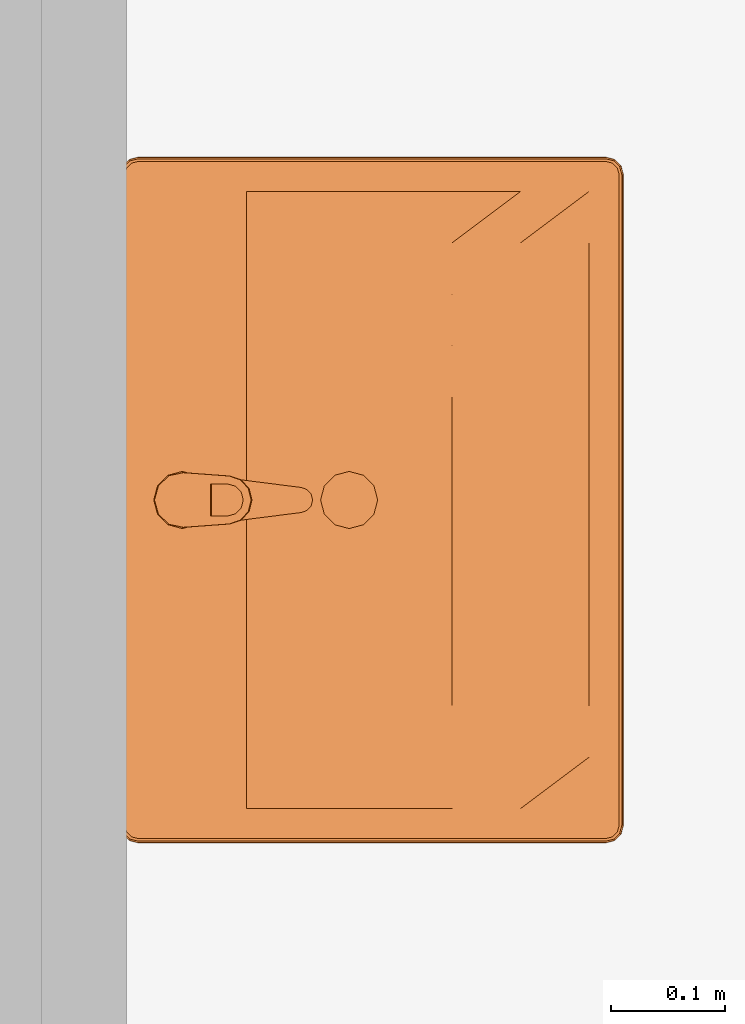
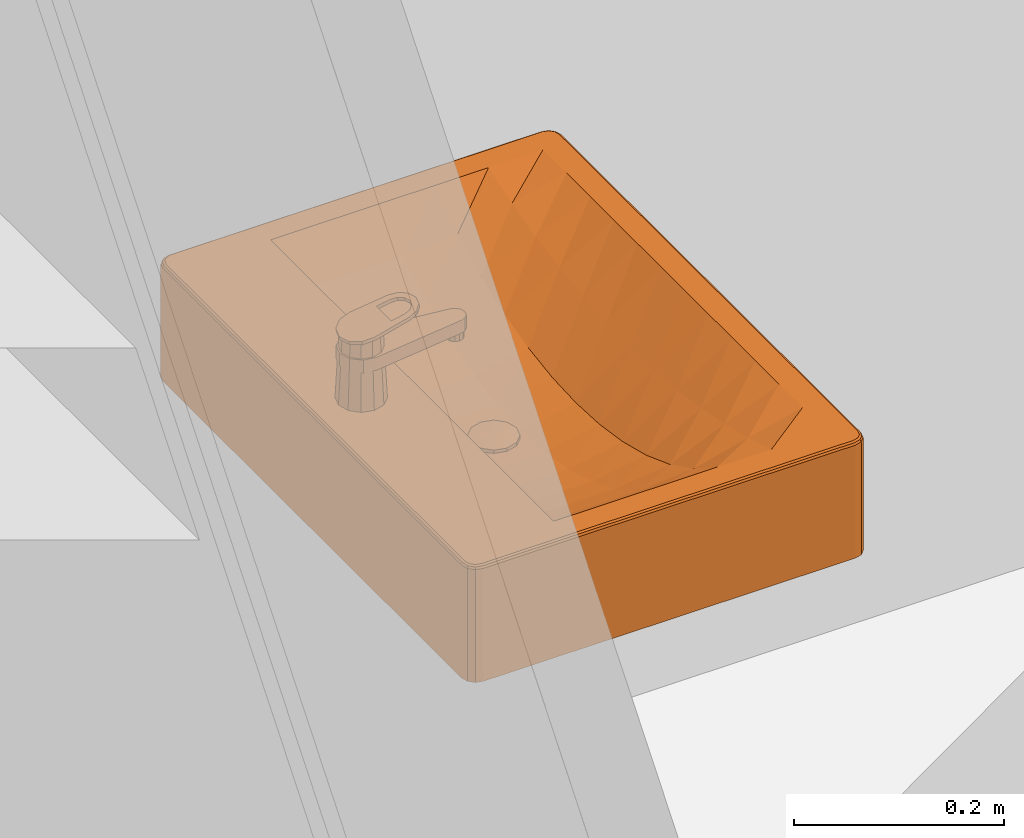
# One storey, part 91 of 91: 1 proxy.
"""IFC2X3 building model written with IfcOpenShell, lengths in metres."""

from ifc_helpers import new_model, entity, si_unit, converted_unit, derived_unit, money_unit, direction, frame, origin_with_axes, place, context, subcontext, project, spatial, open_shell, faceted_brep, surface_model, type_object, element, save


model = new_model("IFC2X3")

# Units and contexts
model_context = context("Model", 3, precision=1e-05, world=origin_with_axes(), true_north=direction((0.0, 1.0)))
body_context = subcontext(model_context, "Body", "Model", "MODEL_VIEW")
ifc_project = project(units=[si_unit("LENGTHUNIT", "METRE"), si_unit("AREAUNIT", "SQUARE_METRE"), si_unit("VOLUMEUNIT", "CUBIC_METRE"), converted_unit("PLANEANGLEUNIT", "DEGREE", entity("IfcPlaneAngleMeasure", 0.0174532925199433), si_unit("PLANEANGLEUNIT", "RADIAN"), dimensions=[0, 0, 0, 0, 0, 0, 0]), money_unit("EUR"), converted_unit("TIMEUNIT", "Year", entity("IfcTimeMeasure", 31557600.0), si_unit("TIMEUNIT", "SECOND"), dimensions=[0, 0, 1, 0, 0, 0, 0]), si_unit("MASSUNIT", "GRAM", prefix="KILO"), si_unit("THERMODYNAMICTEMPERATUREUNIT", "DEGREE_CELSIUS"), si_unit("LUMINOUSINTENSITYUNIT", "LUMEN"), si_unit("ENERGYUNIT", "JOULE", prefix="MEGA"), derived_unit("THERMALCONDUCTANCEUNIT", [(si_unit("POWERUNIT", "WATT"), 1), (si_unit("LENGTHUNIT", "METRE"), -1), (si_unit("THERMODYNAMICTEMPERATUREUNIT", "KELVIN"), -1)]), derived_unit("SPECIFICHEATCAPACITYUNIT", [(si_unit("ENERGYUNIT", "JOULE"), 1), (si_unit("MASSUNIT", "GRAM", prefix="KILO"), -1), (si_unit("THERMODYNAMICTEMPERATUREUNIT", "KELVIN"), -1)]), derived_unit("MASSDENSITYUNIT", [(si_unit("MASSUNIT", "GRAM", prefix="KILO"), 1), (si_unit("VOLUMEUNIT", "CUBIC_METRE"), -1)])], contexts=[model_context])

# Site, building, storey
site_placement = place(None, origin_with_axes())
site = spatial("IfcSite", under=ifc_project, at=site_placement, Name="Site", CompositionType="ELEMENT")
building_placement = place(site_placement, origin_with_axes())
building = spatial("IfcBuilding", under=site, at=building_placement, Name="Bâtiment", CompositionType="ELEMENT")
storey_placement = place(building_placement, origin_with_axes())
storey = spatial("IfcBuildingStorey", under=building, at=storey_placement, Name="RDC", CompositionType="ELEMENT", Elevation=0.0)

# Proxy
building_element_proxy_type = type_object("IfcBuildingElementProxyType", Name="Lavabo 27", PredefinedType="NOTDEFINED")
proxy_placement = place(storey_placement, frame((38.12200801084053, -20.72226813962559, -0.06700000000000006), z_axis=(0.0, 0.0, 1.0), x_axis=(3.309421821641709e-07, 0.9999999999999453, 0.0)))
element("IfcBuildingElementProxy", 1, at=proxy_placement, inside=storey, type_object=building_element_proxy_type, Name="VIDOIR", context=body_context, shape_type="SurfaceModel", body=[
    faceted_brep([(-0.285, -0.44, 0.865), (-0.2925, -0.4379903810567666, 0.865), (-0.2979903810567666, -0.4325, 0.865), (-0.3, -0.425, 0.865), (-0.3, -0.01500000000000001, 0.865), (-0.2979903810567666, -0.007500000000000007, 0.865), (-0.2925, -0.002009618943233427, 0.865), (-0.285, 0.0, 0.865), (0.285, 0.0, 0.865), (0.2925, -0.002009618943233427, 0.865), (0.2979903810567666, -0.007500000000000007, 0.865), (0.3, -0.01500000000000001, 0.865), (0.3, -0.425, 0.865), (0.2979903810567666, -0.4325, 0.865), (0.2925, -0.4379903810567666, 0.865), (0.285, -0.44, 0.865), (0.27, -0.41, 0.865), (0.27, -0.11, 0.865), (-0.27, -0.11, 0.865), (-0.27, -0.41, 0.865), (-0.2849999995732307, -0.4400000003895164, 0.995), (-0.292499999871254, -0.4379903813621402, 0.995), (-0.297990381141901, -0.4325000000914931, 0.995), (-0.3000000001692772, -0.4249999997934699, 0.995), (-0.3000000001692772, -0.01499999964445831, 0.995), (-0.297990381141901, -0.007500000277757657, 0.995), (-0.292499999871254, -0.002009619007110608, 0.995), (-0.2849999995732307, 0.0, 0.995), (0.2849999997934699, 0.0, 0.995), (0.2925000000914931, -0.002009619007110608, 0.995), (0.2979903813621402, -0.007500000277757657, 0.995), (0.3000000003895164, -0.01499999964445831, 0.995), (0.3000000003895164, -0.4249999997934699, 0.995), (0.2979903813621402, -0.4325000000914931, 0.995), (0.2925000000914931, -0.4379903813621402, 0.995), (0.2849999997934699, -0.4400000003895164, 0.995), (0.27, -0.11, 0.9999999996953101), (0.27, -0.41, 0.9999999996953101), (-0.27, -0.11, 0.9999999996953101), (-0.27, -0.41, 0.9999999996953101), (-0.2849775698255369, -0.4398296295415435, 0.9962940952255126), (-0.292411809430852, -0.4378376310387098, 0.9962940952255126), (-0.2978376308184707, -0.4324118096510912, 0.9962940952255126), (-0.2998296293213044, -0.4249775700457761, 0.9962940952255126), (-0.2998296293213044, -0.01502242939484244, 0.9962940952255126), (-0.2978376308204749, -0.007588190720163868, 0.9962940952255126), (-0.292411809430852, -0.002162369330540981, 0.9962940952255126), (-0.2849775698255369, -0.0001703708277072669, 0.9962940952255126), (0.2849775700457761, -0.0001703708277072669, 0.9962940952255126), (0.2924118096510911, -0.002162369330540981, 0.9962940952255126), (0.297837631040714, -0.007588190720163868, 0.9962940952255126), (0.2998296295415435, -0.01502242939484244, 0.9962940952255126), (0.2998296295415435, -0.4249775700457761, 0.9962940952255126), (0.2978376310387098, -0.4324118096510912, 0.9962940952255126), (0.2924118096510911, -0.4378376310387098, 0.9962940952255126), (0.2849775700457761, -0.4398296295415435, 0.9962940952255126), (0.2843417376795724, -0.004999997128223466, 0.9999999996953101), (-0.2843417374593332, -0.004999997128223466, 0.9999999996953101), (-0.2899118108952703, -0.00649249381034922, 0.9999999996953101), (-0.2935075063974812, -0.01008818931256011, 0.9999999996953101), (-0.2950000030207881, -0.01565826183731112, 0.9999999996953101), (-0.2950000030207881, -0.4243417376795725, 0.9999999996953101), (-0.2935075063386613, -0.4299118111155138, 0.9999999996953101), (-0.2899118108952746, -0.4335075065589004, 0.9999999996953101), (-0.2843417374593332, -0.4350000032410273, 0.9999999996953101), (0.2843417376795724, -0.4350000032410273, 0.9999999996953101), (0.2899118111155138, -0.4335075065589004, 0.9999999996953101), (0.2935075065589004, -0.4299118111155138, 0.9999999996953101), (0.2950000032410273, -0.4243417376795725, 0.9999999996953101), (0.2950000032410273, -0.01565826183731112, 0.9999999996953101), (0.2935075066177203, -0.01008818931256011, 0.9999999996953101), (0.2899118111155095, -0.00649249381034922, 0.9999999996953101), (-0.2848071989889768, -0.4385355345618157, 0.9985355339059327), (-0.2917419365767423, -0.4366773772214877, 0.9985355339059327), (-0.2966773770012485, -0.4317419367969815, 0.9985355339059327), (-0.2985355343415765, -0.4248071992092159, 0.9985355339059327), (-0.2985355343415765, -0.01519280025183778, 0.9985355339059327), (-0.2966773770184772, -0.008258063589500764, 0.9985355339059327), (-0.2917419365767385, -0.003322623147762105, 0.9985355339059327), (-0.2848071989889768, -0.001464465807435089, 0.9985355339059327), (0.2848071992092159, -0.001464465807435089, 0.9985355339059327), (0.2917419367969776, -0.003322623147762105, 0.9985355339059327), (0.2966773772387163, -0.008258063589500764, 0.9985355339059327), (0.2985355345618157, -0.01519280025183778, 0.9985355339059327), (0.2985355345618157, -0.4248071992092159, 0.9985355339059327), (0.2966773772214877, -0.4317419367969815, 0.9985355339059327), (0.2917419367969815, -0.4366773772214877, 0.9985355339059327), (0.2848071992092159, -0.4385355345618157, 0.9985355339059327), (0.2845121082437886, -0.003705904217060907, 0.9998296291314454), (-0.2845121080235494, -0.003705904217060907, 0.9998296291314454), (-0.290581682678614, -0.005332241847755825, 0.9998296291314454), (-0.2946677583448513, -0.009418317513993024, 0.9998296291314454), (-0.2962940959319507, -0.01548789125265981, 0.9998296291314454), (-0.2962940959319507, -0.4245121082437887, 0.9998296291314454), (-0.2946677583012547, -0.4305816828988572, 0.9998296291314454), (-0.2905816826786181, -0.4346677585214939, 0.9998296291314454), (-0.2845121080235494, -0.4362940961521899, 0.9998296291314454), (0.2845121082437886, -0.4362940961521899, 0.9998296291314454), (0.2905816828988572, -0.4346677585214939, 0.9998296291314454), (0.2946677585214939, -0.4305816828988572, 0.9998296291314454), (0.2962940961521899, -0.4245121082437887, 0.9998296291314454), (0.2962940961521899, -0.01548789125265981, 0.9998296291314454), (0.2946677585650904, -0.009418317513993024, 0.9998296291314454), (0.2905816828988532, -0.005332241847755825, 0.9998296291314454)], [[[0, 1, 2, 3, 4, 5, 6, 7, 8, 9, 10, 11, 12, 13, 14, 15], [16, 17, 18, 19]], [[1, 0, 20, 21]], [[2, 1, 21, 22]], [[3, 2, 22, 23]], [[4, 3, 23, 24]], [[5, 4, 24, 25]], [[6, 5, 25, 26]], [[7, 6, 26, 27]], [[8, 7, 27, 28]], [[9, 8, 28, 29]], [[10, 9, 29, 30]], [[11, 10, 30, 31]], [[12, 11, 31, 32]], [[13, 12, 32, 33]], [[14, 13, 33, 34]], [[15, 14, 34, 35]], [[0, 15, 35, 20]], [[36, 17, 16, 37]], [[38, 18, 17, 36]], [[39, 19, 18, 38]], [[37, 16, 19, 39]], [[21, 20, 40, 41]], [[22, 21, 41, 42]], [[23, 22, 42, 43]], [[24, 23, 43, 44]], [[25, 24, 44, 45]], [[26, 25, 45, 46]], [[27, 26, 46, 47]], [[28, 27, 47, 48]], [[29, 28, 48, 49]], [[30, 29, 49, 50]], [[31, 30, 50, 51]], [[32, 31, 51, 52]], [[33, 32, 52, 53]], [[34, 33, 53, 54]], [[35, 34, 54, 55]], [[20, 35, 55, 40]], [[56, 57, 58, 59, 60, 61, 62, 63, 64, 65, 66, 67, 68, 69, 70, 71], [37, 39, 38, 36]], [[41, 40, 72, 73]], [[42, 41, 73, 74]], [[43, 42, 74, 75]], [[44, 43, 75, 76]], [[45, 44, 76, 77]], [[46, 45, 77, 78]], [[47, 46, 78, 79]], [[48, 47, 79, 80]], [[49, 48, 80, 81]], [[50, 49, 81, 82]], [[51, 50, 82, 83]], [[52, 51, 83, 84]], [[53, 52, 84, 85]], [[54, 53, 85, 86]], [[55, 54, 86, 87]], [[40, 55, 87, 72]], [[88, 89, 57, 56]], [[89, 90, 58, 57]], [[90, 91, 59, 58]], [[91, 92, 60, 59]], [[92, 93, 61, 60]], [[93, 94, 62, 61]], [[94, 95, 63, 62]], [[95, 96, 64, 63]], [[96, 97, 65, 64]], [[97, 98, 66, 65]], [[98, 99, 67, 66]], [[99, 100, 68, 67]], [[100, 101, 69, 68]], [[101, 102, 70, 69]], [[102, 103, 71, 70]], [[103, 88, 56, 71]], [[73, 72, 96, 95]], [[74, 73, 95, 94]], [[75, 74, 94, 93]], [[76, 75, 93, 92]], [[77, 76, 92, 91]], [[78, 77, 91, 90]], [[79, 78, 90, 89]], [[80, 79, 89, 88]], [[81, 80, 88, 103]], [[82, 81, 103, 102]], [[83, 82, 102, 101]], [[84, 83, 101, 100]], [[85, 84, 100, 99]], [[86, 85, 99, 98]], [[87, 86, 98, 97]], [[72, 87, 97, 96]]]),
    faceted_brep([(0.27, -0.41, 0.865), (-0.27, -0.41, 0.865), (-0.27, -0.11, 0.865), (0.27, -0.11, 0.865), (-0.01249999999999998, -0.221641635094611, 0.865), (0.0, -0.224991, 0.865), (0.01250000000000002, -0.221641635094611, 0.865), (0.02165063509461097, -0.212491, 0.865), (0.025, -0.199991, 0.865), (0.02165063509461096, -0.187491, 0.865), (0.01249999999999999, -0.178340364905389, 0.865), (0.0, -0.174991, 0.865), (-0.01250000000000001, -0.178340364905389, 0.865), (-0.02165063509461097, -0.187491, 0.865), (-0.025, -0.199991, 0.865), (-0.02165063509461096, -0.212491, 0.865), (0.135, -0.41, 1.0), (0.09, -0.41, 1.0), (0.04499999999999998, -0.41, 1.0), (0.0, -0.41, 1.0), (-0.04500000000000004, -0.41, 1.0), (-0.09000000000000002, -0.41, 1.0), (-0.135, -0.41, 1.0), (-0.18, -0.41, 1.0), (-0.225, -0.41, 1.0), (-0.27, -0.41, 1.0), (0.27, -0.41, 1.0), (0.225, -0.41, 1.0), (0.18, -0.41, 1.0), (-0.27, -0.23, 1.0), (-0.27, -0.17, 1.0), (-0.27, -0.11, 1.0), (-0.27, -0.35, 1.0), (-0.27, -0.29, 0.9999999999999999), (-0.135, -0.11, 0.9226004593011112), (-0.09000000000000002, -0.11, 0.9098887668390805), (-0.04500000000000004, -0.11, 0.902449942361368), (0.0, -0.11, 0.9), (0.04499999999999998, -0.11, 0.902449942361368), (0.09, -0.11, 0.9098887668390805), (0.135, -0.11, 0.9226004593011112), (0.18, -0.11, 0.9411231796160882), (0.225, -0.11, 0.9663832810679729), (0.27, -0.11, 1.0), (-0.225, -0.11, 0.9663832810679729), (-0.18, -0.11, 0.9411231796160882), (0.27, -0.29, 1.0), (0.27, -0.35, 1.0), (0.27, -0.17, 1.0), (0.27, -0.23, 1.0), (0.0, -0.224991, 0.9), (-0.01249999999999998, -0.221641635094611, 0.9006805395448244), (0.01250000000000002, -0.221641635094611, 0.9006805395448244), (0.02165063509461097, -0.212491, 0.9011787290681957), (0.025, -0.199991, 0.9013610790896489), (0.02165063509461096, -0.187491, 0.9011787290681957), (0.01249999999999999, -0.178340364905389, 0.9006805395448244), (0.0, -0.174991, 0.9), (-0.01250000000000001, -0.178340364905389, 0.9006805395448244), (-0.02165063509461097, -0.187491, 0.9011787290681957), (-0.025, -0.199991, 0.9013610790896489), (-0.02165063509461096, -0.212491, 0.9011787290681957), (0.09, -0.35, 0.9596989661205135), (0.04499999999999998, -0.35, 0.9560213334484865), (0.0, -0.35, 0.9547990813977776), (-0.04500000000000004, -0.35, 0.9560213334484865), (-0.09000000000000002, -0.35, 0.9596989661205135), (-0.135, -0.35, 0.9658650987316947), (-0.18, -0.35, 0.9745766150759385), (-0.225, -0.35, 0.9859168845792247), (0.225, -0.35, 0.9859168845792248), (0.18, -0.35, 0.9745766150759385), (0.135, -0.35, 0.9658650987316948), (-0.225, -0.23, 0.9663832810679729), (-0.225, -0.17, 0.9663832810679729), (-0.225, -0.29, 0.9708433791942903), (-0.135, -0.17, 0.9226004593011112), (-0.09000000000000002, -0.17, 0.9098887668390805), (-0.04500000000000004, -0.17, 0.902449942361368), (0.0, -0.17, 0.9), (0.04499999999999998, -0.17, 0.902449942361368), (0.09, -0.17, 0.9098887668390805), (0.135, -0.17, 0.9226004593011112), (0.18, -0.17, 0.9411231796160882), (0.225, -0.17, 0.9663832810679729), (-0.18, -0.17, 0.9411231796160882), (0.225, -0.29, 0.9708433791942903), (0.225, -0.23, 0.9663832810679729), (-0.04500000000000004, -0.23, 0.902449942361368), (0.0, -0.23, 0.9), (0.04499999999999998, -0.23, 0.902449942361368), (-0.18, -0.23, 0.9411231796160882), (-0.135, -0.23, 0.9226004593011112), (-0.09000000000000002, -0.23, 0.9098887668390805), (0.09, -0.23, 0.9098887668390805), (0.135, -0.23, 0.9226004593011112), (0.18, -0.23, 0.9411231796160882), (0.0, -0.29, 0.9114604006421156), (0.04499999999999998, -0.29, 0.9136864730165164), (0.09, -0.29, 0.9204312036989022), (-0.04500000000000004, -0.29, 0.9136864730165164), (-0.09000000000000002, -0.29, 0.9204312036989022), (-0.135, -0.29, 0.931904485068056), (-0.18, -0.29, 0.9484946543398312), (0.18, -0.29, 0.9484946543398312), (0.135, -0.29, 0.931904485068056)], [[[0, 1, 2, 3], [4, 5, 6, 7, 8, 9, 10, 11, 12, 13, 14, 15]], [[16, 17, 18, 19, 20, 21, 22, 23, 24, 25, 1, 0, 26, 27, 28]], [[29, 30, 31, 2, 1, 25, 32, 33]], [[34, 35, 36, 37, 38, 39, 40, 41, 42, 43, 3, 2, 31, 44, 45]], [[46, 47, 26, 0, 3, 43, 48, 49]], [[50, 5, 4, 51]], [[52, 6, 5, 50]], [[53, 7, 6, 52]], [[54, 8, 7, 53]], [[55, 9, 8, 54]], [[56, 10, 9, 55]], [[57, 11, 10, 56]], [[58, 12, 11, 57]], [[59, 13, 12, 58]], [[60, 14, 13, 59]], [[61, 15, 14, 60]], [[51, 4, 15, 61]], [[16, 62, 17]], [[17, 63, 18]], [[18, 64, 19]], [[19, 65, 20]], [[20, 66, 21]], [[21, 67, 22]], [[22, 68, 23]], [[23, 69, 24]], [[24, 32, 25]], [[26, 70, 27]], [[27, 71, 28]], [[28, 72, 16]], [[29, 73, 74, 30]], [[30, 74, 44, 31]], [[69, 33, 32]], [[75, 29, 33]], [[76, 77, 35, 34]], [[77, 78, 36, 35]], [[78, 79, 37, 36]], [[79, 80, 38, 37]], [[80, 81, 39, 38]], [[81, 82, 40, 39]], [[82, 83, 41, 40]], [[83, 84, 42, 41]], [[84, 48, 43, 42]], [[74, 85, 45, 44]], [[85, 76, 34, 45]], [[47, 46, 86]], [[26, 47, 70]], [[87, 49, 48, 84]], [[46, 49, 87]], [[58, 57, 79, 78, 88, 89, 50, 51, 61, 60, 59]], [[56, 55, 54, 53, 52, 50, 89, 90, 80, 79, 57]], [[16, 72, 62]], [[17, 62, 63]], [[18, 63, 64]], [[19, 64, 65]], [[20, 65, 66]], [[21, 66, 67]], [[22, 67, 68]], [[23, 68, 69]], [[24, 69, 32]], [[27, 70, 71]], [[28, 71, 72]], [[75, 73, 29]], [[73, 91, 85, 74]], [[69, 75, 33]], [[92, 93, 77, 76]], [[93, 88, 78, 77]], [[90, 94, 81, 80]], [[94, 95, 82, 81]], [[95, 96, 83, 82]], [[96, 87, 84, 83]], [[91, 92, 76, 85]], [[46, 87, 86]], [[47, 86, 70]], [[97, 89, 88]], [[98, 90, 89]], [[72, 99, 62]], [[62, 98, 63]], [[63, 97, 64]], [[64, 100, 65]], [[65, 101, 66]], [[66, 102, 67]], [[67, 103, 68]], [[68, 75, 69]], [[70, 104, 71]], [[71, 105, 72]], [[103, 73, 75]], [[103, 91, 73]], [[101, 93, 92]], [[100, 88, 93]], [[99, 94, 90]], [[105, 95, 94]], [[104, 96, 95]], [[86, 87, 96]], [[102, 92, 91]], [[70, 86, 104]], [[98, 89, 97]], [[97, 88, 100]], [[99, 90, 98]], [[72, 105, 99]], [[62, 99, 98]], [[63, 98, 97]], [[64, 97, 100]], [[65, 100, 101]], [[66, 101, 102]], [[67, 102, 103]], [[68, 103, 75]], [[71, 104, 105]], [[102, 91, 103]], [[100, 93, 101]], [[101, 92, 102]], [[105, 94, 99]], [[104, 95, 105]], [[86, 96, 104]]]),
    faceted_brep([(-0.02165063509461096, -0.212491, 0.9), (-0.025, -0.199991, 0.9), (-0.02165063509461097, -0.187491, 0.9), (-0.01250000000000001, -0.178340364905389, 0.9), (0.0, -0.174991, 0.9), (0.01249999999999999, -0.178340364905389, 0.9), (0.02165063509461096, -0.187491, 0.9), (0.025, -0.199991, 0.9), (0.02165063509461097, -0.212491, 0.9), (0.01250000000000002, -0.221641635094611, 0.9), (0.0, -0.224991, 0.9), (-0.01249999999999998, -0.221641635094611, 0.9), (-0.02165063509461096, -0.212491, 0.905), (-0.025, -0.199991, 0.905), (-0.02165063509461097, -0.187491, 0.905), (-0.01250000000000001, -0.178340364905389, 0.905), (0.0, -0.174991, 0.905), (0.01249999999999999, -0.178340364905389, 0.905), (0.02165063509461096, -0.187491, 0.905), (0.025, -0.199991, 0.905), (0.02165063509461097, -0.212491, 0.905), (0.01250000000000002, -0.221641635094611, 0.905), (0.0, -0.224991, 0.905), (-0.01249999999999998, -0.221641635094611, 0.905)], [[[0, 1, 2, 3, 4, 5, 6, 7, 8, 9, 10, 11]], [[0, 12, 13, 1]], [[1, 13, 14, 2]], [[2, 14, 15, 3]], [[3, 15, 16, 4]], [[4, 16, 17, 5]], [[5, 17, 18, 6]], [[6, 18, 19, 7]], [[7, 19, 20, 8]], [[8, 20, 21, 9]], [[9, 21, 22, 10]], [[10, 22, 23, 11]], [[11, 23, 12, 0]], [[12, 23, 22, 21, 20, 19, 18, 17, 16, 15, 14, 13]]]),
    surface_model("IfcShellBasedSurfaceModel", [(0.0, -0.199991, 0.907), (0.006310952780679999, -0.1890601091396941, 0.9064975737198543), (0.0, -0.18736909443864, 0.9064975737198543), (0.01093089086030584, -0.19368004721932, 0.9064975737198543), (0.0125, -0.178340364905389, 0.905), (0.0, -0.174991, 0.905), (-0.006310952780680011, -0.1890601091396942, 0.9064975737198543), (0.01262190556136, -0.199991, 0.9064975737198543), (0.02165063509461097, -0.187491, 0.905), (-0.01250000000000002, -0.178340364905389, 0.905), (-0.01093089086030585, -0.19368004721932, 0.9064975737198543), (0.01093089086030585, -0.20630195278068, 0.9064975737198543), (0.025, -0.199991, 0.905), (-0.02165063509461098, -0.187491, 0.905), (-0.01262190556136, -0.199991, 0.9064975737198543), (0.006310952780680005, -0.2109218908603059, 0.9064975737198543), (0.02165063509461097, -0.212491, 0.905), (-0.025, -0.199991, 0.905), (-0.01093089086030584, -0.20630195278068, 0.9064975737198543), (0.0, -0.21261290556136, 0.9064975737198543), (0.01250000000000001, -0.221641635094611, 0.905), (-0.02165063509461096, -0.212491, 0.905), (-0.006310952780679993, -0.2109218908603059, 0.9064975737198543), (0.0, -0.224991, 0.905), (-0.01249999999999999, -0.221641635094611, 0.905)], [open_shell([[[0, 1, 2]], [[0, 3, 1]], [[1, 4, 5, 2]], [[0, 2, 6]], [[0, 7, 3]], [[3, 8, 4, 1]], [[2, 5, 9, 6]], [[0, 6, 10]], [[0, 11, 7]], [[7, 12, 8, 3]], [[6, 9, 13, 10]], [[0, 10, 14]], [[0, 15, 11]], [[11, 16, 12, 7]], [[10, 13, 17, 14]], [[0, 14, 18]], [[0, 19, 15]], [[15, 20, 16, 11]], [[14, 17, 21, 18]], [[0, 18, 22]], [[0, 22, 19]], [[19, 23, 20, 15]], [[18, 21, 24, 22]], [[22, 24, 23, 19]]])]),
    faceted_brep([(-0.01250000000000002, -0.03234936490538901, 1.0), (-0.010587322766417, -0.03566221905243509, 1.076507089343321), (0.0, -0.03279807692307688, 1.075961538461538), (0.0, -0.02899999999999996, 1.0), (-0.02165063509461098, -0.04149999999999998, 1.0), (-0.01827355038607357, -0.04344976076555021, 1.07799043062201), (-0.021, -0.05399999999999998, 1.08), (-0.01810034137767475, -0.06445023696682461, 1.081990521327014), (-0.01041410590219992, -0.07203776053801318, 1.083435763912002), (0.0, -0.07480188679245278, 1.083962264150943), (0.01041410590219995, -0.07203776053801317, 1.083435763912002), (0.01810034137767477, -0.0644502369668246, 1.081990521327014), (0.021, -0.05399999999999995, 1.08), (0.01827355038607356, -0.04344976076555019, 1.07799043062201), (0.01058732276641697, -0.03566221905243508, 1.076507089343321), (0.0125, -0.03234936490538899, 1.0), (0.02165063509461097, -0.04149999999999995, 1.0), (0.025, -0.05399999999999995, 1.0), (0.02165063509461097, -0.06649999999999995, 1.0), (0.01250000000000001, -0.07565063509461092, 1.0), (0.0, -0.07899999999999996, 1.0), (-0.01249999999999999, -0.07565063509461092, 1.0), (-0.02165063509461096, -0.06649999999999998, 1.0), (-0.025, -0.05399999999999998, 1.0)], [[[0, 1, 2, 3]], [[4, 5, 1, 0]], [[1, 5, 6, 7, 8, 9, 10, 11, 12, 13, 14, 2]], [[3, 2, 14, 15]], [[0, 3, 15, 16, 17, 18, 19, 20, 21, 22, 23, 4]], [[23, 6, 5, 4]], [[22, 7, 6, 23]], [[21, 8, 7, 22]], [[20, 9, 8, 21]], [[19, 10, 9, 20]], [[18, 11, 10, 19]], [[17, 12, 11, 18]], [[16, 13, 12, 17]], [[15, 14, 13, 16]]]),
    faceted_brep([(-0.009000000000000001, -0.157, 1.035), (-0.009000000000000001, -0.157, 1.045), (-0.007794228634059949, -0.1525, 1.045), (-0.007794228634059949, -0.1525, 1.035), (-0.007794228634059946, -0.1615, 1.035), (-0.007794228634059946, -0.1615, 1.045), (-0.004499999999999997, -0.1647942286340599, 1.045), (0.0, -0.166, 1.045), (0.004500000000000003, -0.1647942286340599, 1.045), (0.007794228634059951, -0.1615, 1.045), (0.009000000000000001, -0.157, 1.045), (0.007794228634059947, -0.1525, 1.045), (0.004499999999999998, -0.14920577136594, 1.045), (0.0, -0.148, 1.045), (-0.004500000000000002, -0.14920577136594, 1.045), (-0.004500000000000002, -0.14920577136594, 1.035), (0.0, -0.148, 1.035), (0.004499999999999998, -0.14920577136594, 1.035), (0.007794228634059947, -0.1525, 1.035), (0.009000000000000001, -0.157, 1.035), (0.007794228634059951, -0.1615, 1.035), (0.004500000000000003, -0.1647942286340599, 1.035), (0.0, -0.166, 1.035), (-0.004499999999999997, -0.1647942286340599, 1.035)], [[[0, 1, 2, 3]], [[4, 5, 1, 0]], [[1, 5, 6, 7, 8, 9, 10, 11, 12, 13, 14, 2]], [[3, 2, 14, 15]], [[0, 3, 15, 16, 17, 18, 19, 20, 21, 22, 23, 4]], [[23, 6, 5, 4]], [[22, 7, 6, 23]], [[21, 8, 7, 22]], [[20, 9, 8, 21]], [[19, 10, 9, 20]], [[18, 11, 10, 19]], [[17, 12, 11, 18]], [[16, 13, 12, 17]], [[15, 14, 13, 16]]]),
    faceted_brep([(0.01287171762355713, -0.0337436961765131, 1.06), (-1.019988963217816e-09, -0.03000002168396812, 1.06), (-0.01287171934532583, -0.03374369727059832, 1.06), (-0.02172780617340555, -0.04380679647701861, 1.06), (-0.02380539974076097, -0.05704990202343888, 1.06), (-0.010912, -0.1583883, 1.06), (-0.00902891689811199, -0.1632831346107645, 1.06), (-0.005093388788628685, -0.1667496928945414, 1.06), (-3.626798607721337e-08, -0.1679999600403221, 1.06), (0.005093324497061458, -0.1667497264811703, 1.06), (0.00902887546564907, -0.163283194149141, 1.06), (0.0109119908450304, -0.1583883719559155, 1.06), (0.0238054, -0.05704989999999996, 1.06), (0.02172780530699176, -0.04380679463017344, 1.06), (-0.01100000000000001, -0.03494744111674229, 1.06), (0.0, -0.03199999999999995, 1.06), (0.011, -0.03494744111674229, 1.06), (0.01905255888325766, -0.04299999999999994, 1.06), (0.02200000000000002, -0.05399999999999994, 1.06), (0.01905255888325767, -0.06499999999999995, 1.06), (0.01100000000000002, -0.07305255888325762, 1.06), (0.0, -0.07599999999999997, 1.06), (-0.01099999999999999, -0.07305255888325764, 1.06), (-0.01905255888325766, -0.06499999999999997, 1.06), (-0.02200000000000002, -0.05399999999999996, 1.06), (-0.01905255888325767, -0.04299999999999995, 1.06), (0.01287171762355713, -0.0337436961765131, 1.045), (-1.019988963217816e-09, -0.03000002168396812, 1.045), (-0.01287171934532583, -0.03374369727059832, 1.045), (-0.02172780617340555, -0.04380679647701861, 1.045), (-0.02380539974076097, -0.05704990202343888, 1.045), (-0.010912, -0.1583883, 1.045), (-0.00902891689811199, -0.1632831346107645, 1.045), (-0.005093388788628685, -0.1667496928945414, 1.045), (-3.626798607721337e-08, -0.1679999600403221, 1.045), (0.005093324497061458, -0.1667497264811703, 1.045), (0.00902887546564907, -0.163283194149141, 1.045), (0.0109119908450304, -0.1583883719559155, 1.045), (0.0238054, -0.05704989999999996, 1.045), (0.02172780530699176, -0.04380679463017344, 1.045), (0.0, -0.03124999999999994, 1.045), (-0.01137500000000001, -0.03429792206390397, 1.045), (0.011375, -0.03429792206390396, 1.045), (0.01970207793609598, -0.04262499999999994, 1.045), (0.02275000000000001, -0.05399999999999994, 1.045), (0.01970207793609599, -0.06537499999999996, 1.045), (0.01137500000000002, -0.07370207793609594, 1.045), (0.0, -0.07674999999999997, 1.045), (-0.01137499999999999, -0.07370207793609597, 1.045), (-0.01970207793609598, -0.06537499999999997, 1.045), (-0.02275000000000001, -0.05399999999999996, 1.045), (-0.01970207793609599, -0.04262499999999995, 1.045)], [[[0, 1, 2, 3, 4, 5, 6, 7, 8, 9, 10, 11, 12, 13], [14, 15, 16, 17, 18, 19, 20, 21, 22, 23, 24, 25]], [[26, 27, 1, 0]], [[27, 28, 2, 1]], [[28, 29, 3, 2]], [[29, 30, 4, 3]], [[30, 31, 5, 4]], [[31, 32, 6, 5]], [[32, 33, 7, 6]], [[33, 34, 8, 7]], [[34, 35, 9, 8]], [[35, 36, 10, 9]], [[36, 37, 11, 10]], [[37, 38, 12, 11]], [[38, 39, 13, 12]], [[39, 26, 0, 13]], [[40, 15, 14, 41]], [[42, 16, 15, 40]], [[16, 42, 43, 17]], [[17, 43, 44, 18]], [[18, 44, 45, 19]], [[19, 45, 46, 20]], [[20, 46, 47, 21]], [[48, 22, 21, 47]], [[49, 23, 22, 48]], [[50, 24, 23, 49]], [[51, 25, 24, 50]], [[41, 14, 25, 51]], [[34, 33, 32, 31, 30, 29, 28, 27, 26, 39, 38, 37, 36, 35], [48, 47, 46, 45, 44, 43, 42, 40, 41, 51, 50, 49]]]),
    faceted_brep([(-0.023893, -0.05569256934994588, 1.080322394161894), (-0.023893, -0.0549441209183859, 1.084251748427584), (-0.02129642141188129, -0.0424768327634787, 1.081877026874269), (-0.02129642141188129, -0.04322528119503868, 1.077947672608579), (-0.02094593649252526, -0.09583670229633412, 1.087968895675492), (-0.02094593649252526, -0.09508825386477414, 1.091898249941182), (-0.01766313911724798, -0.1047659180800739, 1.09374161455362), (-0.01006143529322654, -0.11171529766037, 1.095065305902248), (4.426529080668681e-07, -0.1142371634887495, 1.09554566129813), (0.01006221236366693, -0.1117148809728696, 1.0950652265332), (0.01766361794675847, -0.1047651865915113, 1.093741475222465), (0.020946, -0.09508738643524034, 1.091898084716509), (0.02389302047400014, -0.05494384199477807, 1.084251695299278), (0.02129629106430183, -0.04247658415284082, 1.081876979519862), (0.0124716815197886, -0.03316035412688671, 1.080102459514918), (-1.423377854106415e-07, -0.02971958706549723, 1.079447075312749), (-0.01247192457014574, -0.03316049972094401, 1.080102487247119), (-0.014, -0.07879235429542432, 1.08879426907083), (0.014, -0.07879235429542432, 1.08879426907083), (0.014, -0.09360798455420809, 1.091616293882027), (0.01212435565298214, -0.1004843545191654, 1.092926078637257), (0.007000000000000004, -0.1055182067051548, 1.093884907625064), (0.0, -0.1073607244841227, 1.094235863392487), (-0.006999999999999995, -0.1055182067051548, 1.093884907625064), (-0.01212435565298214, -0.1004843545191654, 1.092926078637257), (-0.014, -0.0936079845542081, 1.091616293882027), (-0.01247192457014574, -0.03390894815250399, 1.076173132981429), (-1.423377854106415e-07, -0.03046803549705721, 1.075517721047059), (0.0124716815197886, -0.03390880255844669, 1.076173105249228), (0.02129629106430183, -0.0432250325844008, 1.077947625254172), (0.02389302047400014, -0.05569229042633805, 1.080322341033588), (0.020946, -0.0958358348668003, 1.087968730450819), (0.01766361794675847, -0.1055136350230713, 1.089812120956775), (0.01006221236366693, -0.1124633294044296, 1.09113587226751), (4.426529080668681e-07, -0.1149856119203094, 1.09161630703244), (-0.01006143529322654, -0.11246374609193, 1.091135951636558), (-0.01766313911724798, -0.1055143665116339, 1.08981226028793), (-0.014, -0.0795408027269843, 1.08486491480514), (-0.014, -0.09435643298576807, 1.087686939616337), (-0.01212435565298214, -0.1012328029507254, 1.088996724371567), (-0.006999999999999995, -0.1062666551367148, 1.089955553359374), (0.0, -0.1081091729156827, 1.090306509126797), (0.007000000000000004, -0.1062666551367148, 1.089955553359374), (0.01212435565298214, -0.1012328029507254, 1.088996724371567), (0.014, -0.09435643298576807, 1.087686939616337), (0.014, -0.0795408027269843, 1.08486491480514)], [[[0, 1, 2, 3]], [[4, 5, 1, 0]], [[1, 5, 6, 7, 8, 9, 10, 11, 12, 13, 14, 15, 16, 2], [17, 18, 19, 20, 21, 22, 23, 24, 25]], [[3, 2, 16, 26]], [[0, 3, 26, 27, 28, 29, 30, 31, 32, 33, 34, 35, 36, 4], [37, 38, 39, 40, 41, 42, 43, 44, 45]], [[36, 6, 5, 4]], [[35, 7, 6, 36]], [[34, 8, 7, 35]], [[33, 9, 8, 34]], [[32, 10, 9, 33]], [[31, 11, 10, 32]], [[30, 12, 11, 31]], [[29, 13, 12, 30]], [[28, 14, 13, 29]], [[27, 15, 14, 28]], [[26, 16, 15, 27]], [[45, 18, 17, 37]], [[44, 19, 18, 45]], [[43, 20, 19, 44]], [[42, 21, 20, 43]], [[41, 22, 21, 42]], [[40, 23, 22, 41]], [[39, 24, 23, 40]], [[38, 25, 24, 39]], [[37, 17, 25, 38]]]),
])

save(model, "model.ifc")
